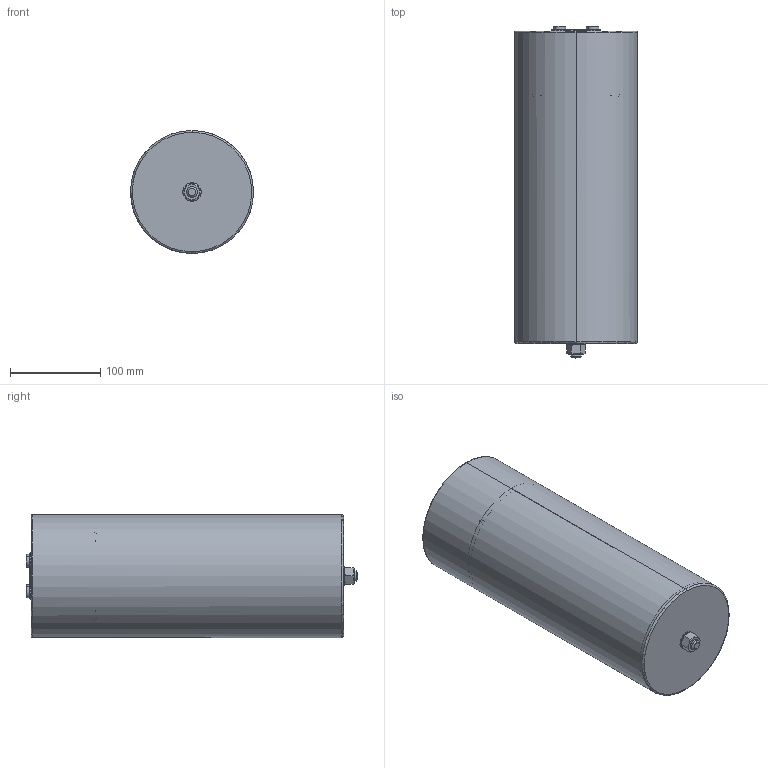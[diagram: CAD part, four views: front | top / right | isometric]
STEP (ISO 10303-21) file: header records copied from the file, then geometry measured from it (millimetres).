
FILE_DESCRIPTION (( 'STEP AP203' ), '1' );
FILE_NAME ('B25690Cx_136x345_351.STEP', '2021-09-07T08:00:29', ( '' ), ( '' ), 'SwSTEP 2.0', 'SolidWorks 2017', '' );
FILE_SCHEMA (( 'CONFIG_CONTROL_DESIGN' ));
Length unit declared in the file: millimetre
Products named in the file (1): B25690Cx_136x345_351
Bounding box: 136 x 367 x 136 mm (x, y, z)
Volume: 341498.4 mm3; surface area: 354220.7 mm2
Topology: 1 solids, 3 shells, 295 faces, 755 edges, 472 vertices
Faces by surface type: plane 144, cylinder 97, cone 38, torus 8, sphere 8
Entity records: 9270 total; most frequent: CARTESIAN_POINT 2139, DIRECTION 1513, ORIENTED_EDGE 1494, EDGE_CURVE 747, AXIS2_PLACEMENT_3D 594, VERTEX_POINT 472, LINE 325, VECTOR 325
